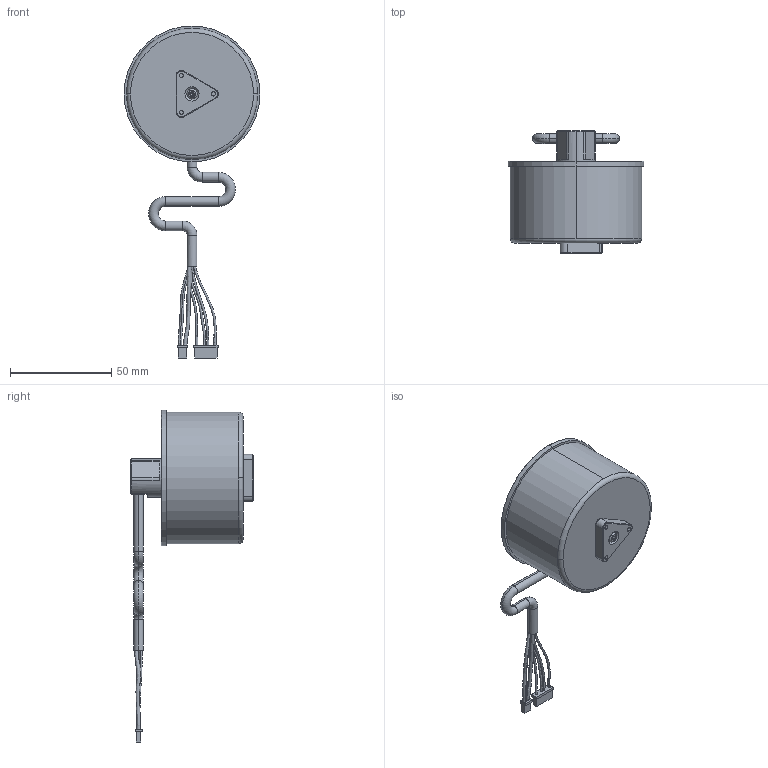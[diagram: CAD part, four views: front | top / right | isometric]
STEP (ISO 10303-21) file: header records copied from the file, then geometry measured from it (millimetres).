
FILE_DESCRIPTION (( 'STEP AP214' ), '1' );
FILE_NAME ('M0601C_111妗极.STEP', '2021-07-30T02:25:36', ( '' ), ( '' ), 'SwSTEP 2.0', 'SolidWorks 2018', '' );
FILE_SCHEMA (( 'AUTOMOTIVE_DESIGN' ));
Length unit declared in the file: millimetre
Products named in the file (3): LOGO; M0601C_111妗极; M0601C
Assembly tree (2 placements, depth 2):
  M0601C_111妗极
    M0601C
    LOGO
Bounding box: 67 x 60.3 x 163.68 mm (x, y, z)
Volume: 138096.5 mm3; surface area: 27514.6 mm2
Topology: 5 solids, 9 shells, 1231 faces, 3206 edges, 2100 vertices
Faces by surface type: plane 642, bspline 378, cylinder 116, cone 81, torus 14
Entity records: 49827 total; most frequent: CARTESIAN_POINT 13434, ORIENTED_EDGE 6396, DIRECTION 4467, EDGE_CURVE 3198, VERTEX_POINT 2100, LINE 2045, VECTOR 2045, EDGE_LOOP 1362
